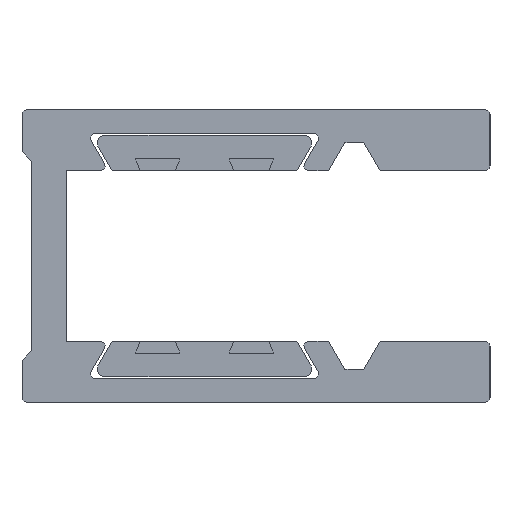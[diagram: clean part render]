
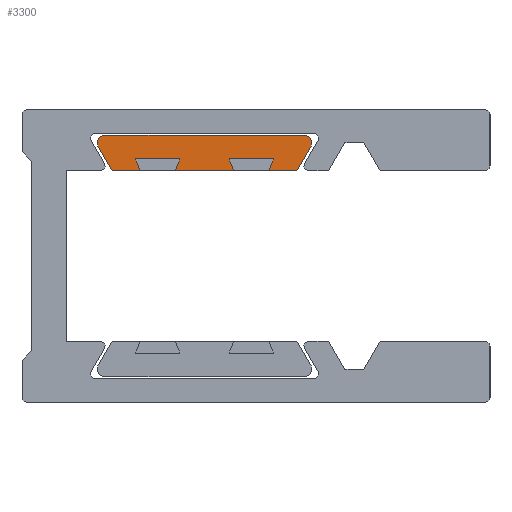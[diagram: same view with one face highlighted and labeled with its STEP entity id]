
A CAD part, left-side view. The second image highlights one B-rep face of the part: STEP entity #3300.
In plain terms, the highlighted planar face has unit normal (-1, 0, 0).
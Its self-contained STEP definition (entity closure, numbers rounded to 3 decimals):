
#11 = ORIENTED_EDGE ( 'NONE', *, *, #350, .F. ) ;
#78 = VECTOR ( 'NONE', #3923, 1000. ) ;
#173 = EDGE_CURVE ( 'NONE', #1705, #3897, #1806, .T. ) ;
#233 = VECTOR ( 'NONE', #3190, 1000. ) ;
#288 = LINE ( 'NONE', #1215, #3192 ) ;
#323 = CARTESIAN_POINT ( 'NONE',  ( -1500., 0., 0. ) ) ;
#350 = EDGE_CURVE ( 'NONE', #1833, #1732, #1965, .T. ) ;
#357 = EDGE_CURVE ( 'NONE', #1732, #1705, #2875, .T. ) ;
#435 = VECTOR ( 'NONE', #2075, 1000. ) ;
#442 = DIRECTION ( 'NONE',  ( 0., -0.371, -0.928 ) ) ;
#476 = CARTESIAN_POINT ( 'NONE',  ( -1500., 8.25, 3.65 ) ) ;
#611 = LINE ( 'NONE', #2418, #1737 ) ;
#618 = CARTESIAN_POINT ( 'NONE',  ( -1500., 7.644, 4.7 ) ) ;
#676 = CARTESIAN_POINT ( 'NONE',  ( -1500., 16.15, 3.65 ) ) ;
#731 = ORIENTED_EDGE ( 'NONE', *, *, #877, .T. ) ;
#835 = CARTESIAN_POINT ( 'NONE',  ( -1500., 11.15, 4.15 ) ) ;
#861 = ORIENTED_EDGE ( 'NONE', *, *, #3782, .F. ) ;
#877 = EDGE_CURVE ( 'NONE', #2313, #3810, #1112, .T. ) ;
#1026 = VERTEX_POINT ( 'NONE', #3708 ) ;
#1050 = ORIENTED_EDGE ( 'NONE', *, *, #357, .F. ) ;
#1083 = CARTESIAN_POINT ( 'NONE',  ( -1500., 11.15, 4.15 ) ) ;
#1090 = VERTEX_POINT ( 'NONE', #3076 ) ;
#1095 = LINE ( 'NONE', #476, #2991 ) ;
#1112 = CIRCLE ( 'NONE', #1638, 0.3 ) ;
#1130 = ORIENTED_EDGE ( 'NONE', *, *, #2026, .F. ) ;
#1140 = CARTESIAN_POINT ( 'NONE',  ( -1500., 14.95, 3.65 ) ) ;
#1168 = CARTESIAN_POINT ( 'NONE',  ( -1500., 16.496, 5.15 ) ) ;
#1215 = CARTESIAN_POINT ( 'NONE',  ( -1500., 16.15, 3.65 ) ) ;
#1248 = EDGE_CURVE ( 'NONE', #1090, #2204, #1095, .T. ) ;
#1276 = CARTESIAN_POINT ( 'NONE',  ( -1500., 13.45, 3.65 ) ) ;
#1358 = EDGE_CURVE ( 'NONE', #2859, #1807, #3619, .T. ) ;
#1370 = CARTESIAN_POINT ( 'NONE',  ( -1500., 15.15, 4.15 ) ) ;
#1398 = ORIENTED_EDGE ( 'NONE', *, *, #1537, .F. ) ;
#1433 = CARTESIAN_POINT ( 'NONE',  ( -1500., 7.644, 4.7 ) ) ;
#1502 = ORIENTED_EDGE ( 'NONE', *, *, #2512, .F. ) ;
#1505 = ORIENTED_EDGE ( 'NONE', *, *, #2851, .F. ) ;
#1537 = EDGE_CURVE ( 'NONE', #2204, #2859, #611, .T. ) ;
#1584 = PLANE ( 'NONE',  #2296 ) ;
#1638 = AXIS2_PLACEMENT_3D ( 'NONE', #3522, #1952, #1686 ) ;
#1686 = DIRECTION ( 'NONE',  ( 0., 0., 1. ) ) ;
#1692 = EDGE_CURVE ( 'NONE', #1026, #2703, #3773, .T. ) ;
#1705 = VERTEX_POINT ( 'NONE', #2483 ) ;
#1732 = VERTEX_POINT ( 'NONE', #3139 ) ;
#1737 = VECTOR ( 'NONE', #1745, 1000. ) ;
#1745 = DIRECTION ( 'NONE',  ( 0., -0.371, 0.928 ) ) ;
#1754 = DIRECTION ( 'NONE',  ( 0., -0.371, -0.928 ) ) ;
#1772 = LINE ( 'NONE', #1168, #435 ) ;
#1806 = LINE ( 'NONE', #1140, #2006 ) ;
#1807 = VERTEX_POINT ( 'NONE', #1083 ) ;
#1815 = DIRECTION ( 'NONE',  ( 0., -0.866, -0.5 ) ) ;
#1828 = ORIENTED_EDGE ( 'NONE', *, *, #173, .F. ) ;
#1833 = VERTEX_POINT ( 'NONE', #3480 ) ;
#1836 = CARTESIAN_POINT ( 'NONE',  ( -1500., 7.904, 4.85 ) ) ;
#1878 = ORIENTED_EDGE ( 'NONE', *, *, #1692, .F. ) ;
#1952 = DIRECTION ( 'NONE',  ( -1., 0., 0. ) ) ;
#1965 = LINE ( 'NONE', #3209, #233 ) ;
#2006 = VECTOR ( 'NONE', #3649, 1000. ) ;
#2026 = EDGE_CURVE ( 'NONE', #3669, #1090, #2371, .T. ) ;
#2059 = DIRECTION ( 'NONE',  ( 0., 1., 0. ) ) ;
#2075 = DIRECTION ( 'NONE',  ( 0., -1., 0. ) ) ;
#2113 = ORIENTED_EDGE ( 'NONE', *, *, #3022, .F. ) ;
#2188 = LINE ( 'NONE', #1276, #3450 ) ;
#2204 = VERTEX_POINT ( 'NONE', #3684 ) ;
#2283 = CARTESIAN_POINT ( 'NONE',  ( -1500., 16.756, 4.7 ) ) ;
#2296 = AXIS2_PLACEMENT_3D ( 'NONE', #323, #3054, #3360 ) ;
#2313 = VERTEX_POINT ( 'NONE', #3527 ) ;
#2319 = VECTOR ( 'NONE', #1754, 1000. ) ;
#2371 = LINE ( 'NONE', #1433, #78 ) ;
#2412 = ORIENTED_EDGE ( 'NONE', *, *, #1248, .F. ) ;
#2418 = CARTESIAN_POINT ( 'NONE',  ( -1500., 9.45, 3.65 ) ) ;
#2436 = VERTEX_POINT ( 'NONE', #2939 ) ;
#2483 = CARTESIAN_POINT ( 'NONE',  ( -1500., 14.95, 3.65 ) ) ;
#2495 = VECTOR ( 'NONE', #442, 1000. ) ;
#2510 = DIRECTION ( 'NONE',  ( 0., -0.371, 0.928 ) ) ;
#2512 = EDGE_CURVE ( 'NONE', #1807, #1026, #3580, .T. ) ;
#2594 = EDGE_LOOP ( 'NONE', ( #1505, #731, #861, #1828, #1050, #11, #2113, #1878, #1502, #3176, #1398, #2412, #1130, #3807 ) ) ;
#2606 = VECTOR ( 'NONE', #2059, 1000. ) ;
#2703 = VERTEX_POINT ( 'NONE', #2936 ) ;
#2747 = CARTESIAN_POINT ( 'NONE',  ( -1500., 9.25, 4.15 ) ) ;
#2798 = DIRECTION ( 'NONE',  ( 0., 1., 0. ) ) ;
#2810 = CIRCLE ( 'NONE', #3635, 0.3 ) ;
#2851 = EDGE_CURVE ( 'NONE', #2313, #2436, #1772, .T. ) ;
#2859 = VERTEX_POINT ( 'NONE', #3936 ) ;
#2875 = LINE ( 'NONE', #1370, #2495 ) ;
#2920 = DIRECTION ( 'NONE',  ( 0., 1., 0. ) ) ;
#2936 = CARTESIAN_POINT ( 'NONE',  ( -1500., 13.45, 3.65 ) ) ;
#2939 = CARTESIAN_POINT ( 'NONE',  ( -1500., 7.904, 5.15 ) ) ;
#2991 = VECTOR ( 'NONE', #2920, 1000. ) ;
#3022 = EDGE_CURVE ( 'NONE', #2703, #1833, #2188, .T. ) ;
#3054 = DIRECTION ( 'NONE',  ( 1., 0., 0. ) ) ;
#3076 = CARTESIAN_POINT ( 'NONE',  ( -1500., 8.25, 3.65 ) ) ;
#3078 = CARTESIAN_POINT ( 'NONE',  ( -1500., 10.95, 3.65 ) ) ;
#3139 = CARTESIAN_POINT ( 'NONE',  ( -1500., 15.15, 4.15 ) ) ;
#3176 = ORIENTED_EDGE ( 'NONE', *, *, #1358, .F. ) ;
#3190 = DIRECTION ( 'NONE',  ( 0., 1., 0. ) ) ;
#3192 = VECTOR ( 'NONE', #3658, 1000. ) ;
#3209 = CARTESIAN_POINT ( 'NONE',  ( -1500., 13.25, 4.15 ) ) ;
#3291 = FACE_OUTER_BOUND ( 'NONE', #2594, .T. ) ;
#3300 = ADVANCED_FACE ( 'NONE', ( #3291 ), #1584, .F. ) ;
#3360 = DIRECTION ( 'NONE',  ( 0., 1., 0. ) ) ;
#3407 = DIRECTION ( 'NONE',  ( -1., 0., 0. ) ) ;
#3450 = VECTOR ( 'NONE', #2510, 1000. ) ;
#3480 = CARTESIAN_POINT ( 'NONE',  ( -1500., 13.25, 4.15 ) ) ;
#3522 = CARTESIAN_POINT ( 'NONE',  ( -1500., 16.496, 4.85 ) ) ;
#3527 = CARTESIAN_POINT ( 'NONE',  ( -1500., 16.496, 5.15 ) ) ;
#3580 = LINE ( 'NONE', #835, #2319 ) ;
#3619 = LINE ( 'NONE', #2747, #2606 ) ;
#3635 = AXIS2_PLACEMENT_3D ( 'NONE', #1836, #3407, #1815 ) ;
#3649 = DIRECTION ( 'NONE',  ( 0., 1., 0. ) ) ;
#3658 = DIRECTION ( 'NONE',  ( 0., 0.5, 0.866 ) ) ;
#3669 = VERTEX_POINT ( 'NONE', #618 ) ;
#3684 = CARTESIAN_POINT ( 'NONE',  ( -1500., 9.45, 3.65 ) ) ;
#3708 = CARTESIAN_POINT ( 'NONE',  ( -1500., 10.95, 3.65 ) ) ;
#3744 = EDGE_CURVE ( 'NONE', #3669, #2436, #2810, .T. ) ;
#3773 = LINE ( 'NONE', #3078, #3790 ) ;
#3782 = EDGE_CURVE ( 'NONE', #3897, #3810, #288, .T. ) ;
#3790 = VECTOR ( 'NONE', #2798, 1000. ) ;
#3807 = ORIENTED_EDGE ( 'NONE', *, *, #3744, .T. ) ;
#3810 = VERTEX_POINT ( 'NONE', #2283 ) ;
#3897 = VERTEX_POINT ( 'NONE', #676 ) ;
#3923 = DIRECTION ( 'NONE',  ( 0., 0.5, -0.866 ) ) ;
#3936 = CARTESIAN_POINT ( 'NONE',  ( -1500., 9.25, 4.15 ) ) ;
